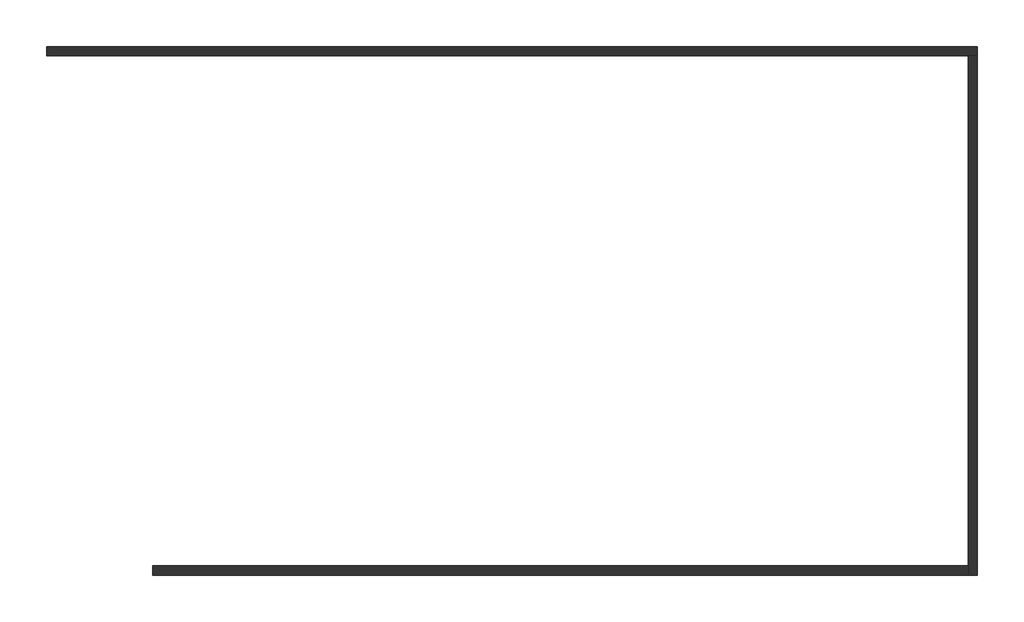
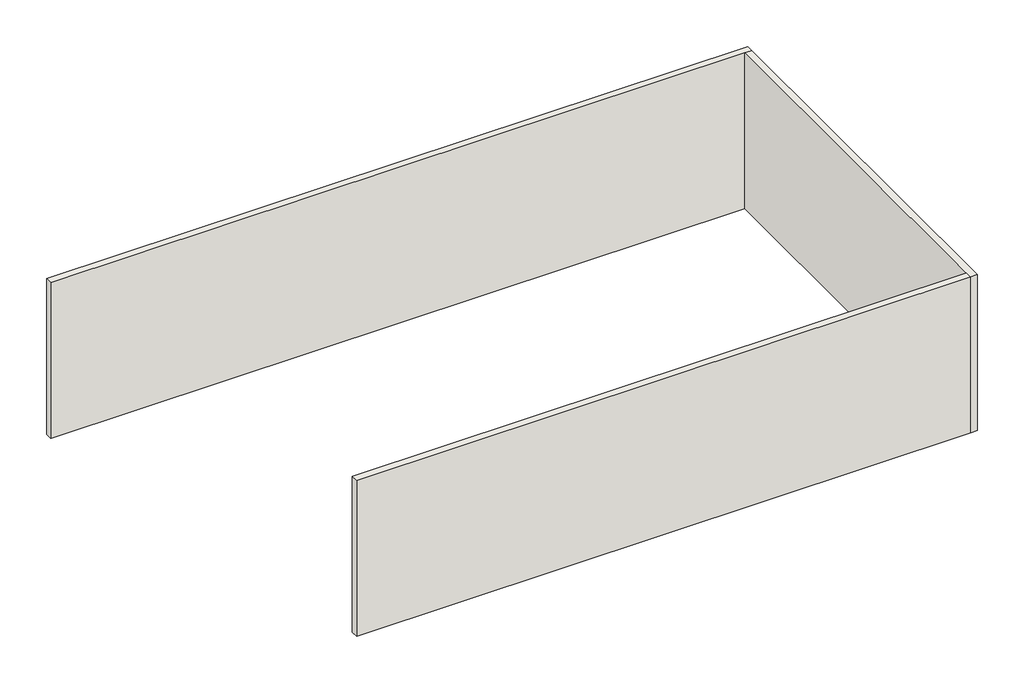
# One storey: 3 walls.
"""IFC4 building model written with IfcOpenShell, lengths in millimetres."""

from ifc_helpers import new_model, si_unit, origin, origin_with_axes, place, context, project, spatial, polyline, outline, extrude, faceted_brep, element, save

model = new_model("IFC4")

# Units and contexts
model_context = context("Model", 3, world=origin())
ifc_project = project(units=[si_unit("LENGTHUNIT", "METRE", prefix="MILLI")], contexts=[model_context])

# Site, building, storey
site = spatial("IfcSite", under=ifc_project)
building = spatial("IfcBuilding", under=site)
storey = spatial("IfcBuildingStorey", under=building, Name="樓層 1", Elevation=0.0)

# Walls
placement = place(None, origin())
element("IfcWall", 1, ObjectType="RC 牆 15cm", at=placement, inside=storey, context=model_context, shape_type="Brep", body=[
    faceted_brep([(5678.0604335, 2790.3619108, 0.0), (-9196.9395665, 2790.3619108, 0.0), (-9196.9395665, 2790.3619108, 3500.0), (5678.0604335, 2790.3619108, 3500.0), (5678.0604335, 2640.3619108, 0.0), (5678.0604335, 2640.3619108, 3500.0), (5528.0604335, 2640.3619108, 3500.0), (-9196.9395665, 2640.3619108, 3500.0), (-9196.9395665, 2640.3619108, 0.0), (5528.0604335, 2640.3619108, 0.0)], [[[0, 1, 2, 3]], [[4, 5, 6, 7, 8, 9]], [[1, 0, 4, 9, 8]], [[2, 1, 8, 7]], [[3, 2, 7, 6, 5]], [[0, 3, 5, 4]]]),
])
element("IfcWall", 2, ObjectType="RC 牆 15cm", at=placement, inside=storey, context=model_context, shape_type="Brep", body=[
    faceted_brep([(5678.0604335, -5659.6380892, 0.0), (5678.0604335, 2640.3619108, 0.0), (5678.0604335, 2640.3619108, 3500.0), (5678.0604335, -5659.6380892, 3500.0), (5528.0604335, -5659.6380892, 0.0), (5528.0604335, -5659.6380892, 3500.0), (5528.0604335, -5509.6380892, 3500.0), (5528.0604335, 2640.3619108, 3500.0), (5528.0604335, 2640.3619108, 0.0), (5528.0604335, -5509.6380892, 0.0)], [[[0, 1, 2, 3]], [[4, 5, 6, 7, 8, 9]], [[1, 0, 4, 9, 8]], [[3, 2, 7, 6, 5]], [[2, 1, 8, 7]], [[0, 3, 5, 4]]]),
])
element("IfcWall", 3, ObjectType="RC 牆 15cm", at=placement, inside=storey, context=model_context, shape_type="SweptSolid", body=[
    extrude(outline(polyline([(5528.0604335, -5659.6380892), (-7496.9395665, -5659.6380892), (-7496.9395665, -5509.6380892), (5528.0604335, -5509.6380892), (5528.0604335, -5659.6380892)])), origin_with_axes(), (0.0, 0.0, 1.0), 3500.0),
])

save(model, "model.ifc")
